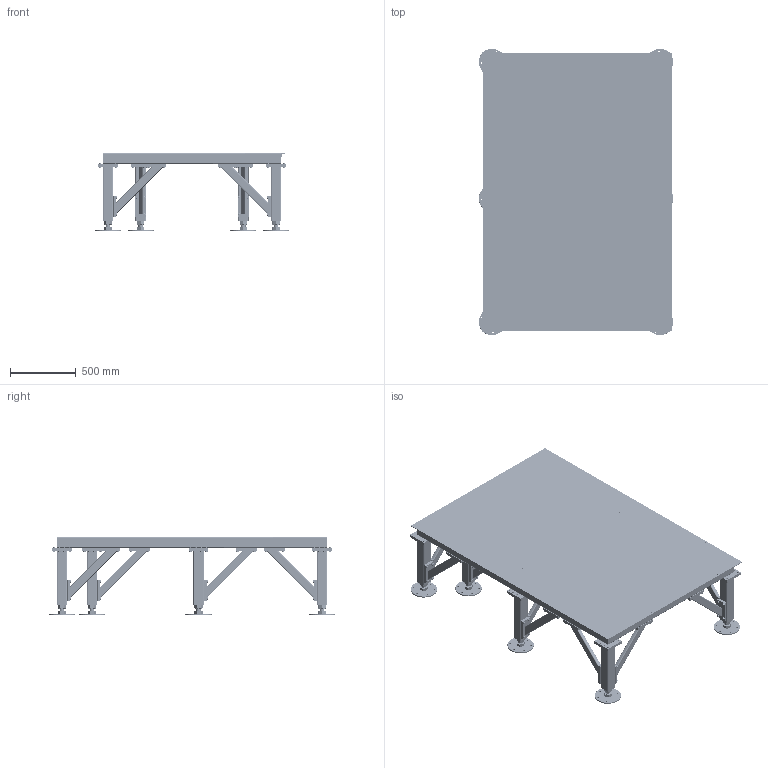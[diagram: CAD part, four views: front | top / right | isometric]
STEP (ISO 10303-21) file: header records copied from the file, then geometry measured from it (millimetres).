
FILE_DESCRIPTION (( 'STEP AP214' ), '1' );
FILE_NAME ('PIC-MEB-01-3D.STEP', '2025-08-03T13:22:20', ( '' ), ( '' ), 'SwSTEP 2.0', 'SolidWorks 2017', '' );
FILE_SCHEMA (( 'AUTOMOTIVE_DESIGN' ));
Length unit declared in the file: millimetre
Products named in the file (16): PIC-MEB-07; z-Washer_WASHER M 10; PIC-MEB-05_1<Brut d''usinage>; PIC-MEB-05_1; PIC-MEB-07_DWG; PIC-MEB-04; PIC-MEB-03; z-Screw_H_SCREW H M10x30-26; PIC-MEB-02_D‚faut<Brut d''usinage>; z-vis h _m36x140; PIC-MEB-01-3D; PIC-MEB-05_2; z-ecrou_din934_m36-10; z-M10 assy; PIC-MEB-06_1<Brut d''usinage>; PIC-MEB-05_2<Brut d''usinage>
Assembly tree (111 placements, depth 4):
  PIC-MEB-01-3D
    PIC-MEB-02_D‚faut<Brut d''usinage>
    PIC-MEB-05_2  x6
      PIC-MEB-05_1<Brut d''usinage>
      z-M10 assy
        z-Screw_H_SCREW H M10x30-26
        z-Washer_WASHER M 10
      PIC-MEB-06_1<Brut d''usinage>
      PIC-MEB-07_DWG
        z-vis h _m36x140
        z-ecrou_din934_m36-10
        PIC-MEB-07
    PIC-MEB-05_1  x2
      PIC-MEB-05_2<Brut d''usinage>
      z-M10 assy
        z-Screw_H_SCREW H M10x30-26
        z-Washer_WASHER M 10
      PIC-MEB-06_1<Brut d''usinage>
      PIC-MEB-07_DWG
        z-vis h _m36x140
        z-ecrou_din934_m36-10
        PIC-MEB-07
    z-M10 assy  x64
      z-Screw_H_SCREW H M10x30-26
      z-Washer_WASHER M 10
    PIC-MEB-04
    PIC-MEB-03
Bounding box: 1479.33 x 2179.33 x 600 mm (x, y, z)
Volume: 55977683.7 mm3; surface area: 28338942.5 mm2
Topology: 497 solids, 497 shells, 6551 faces, 15669 edges, 10258 vertices
Faces by surface type: plane 3014, cylinder 2577, cone 944, bspline 16
Entity records: 45000 total; most frequent: CARTESIAN_POINT 7649, DIRECTION 7397, ORIENTED_EDGE 6672, EDGE_CURVE 3336, AXIS2_PLACEMENT_3D 2839, VERTEX_POINT 2197, EDGE_LOOP 1839, VECTOR 1719
